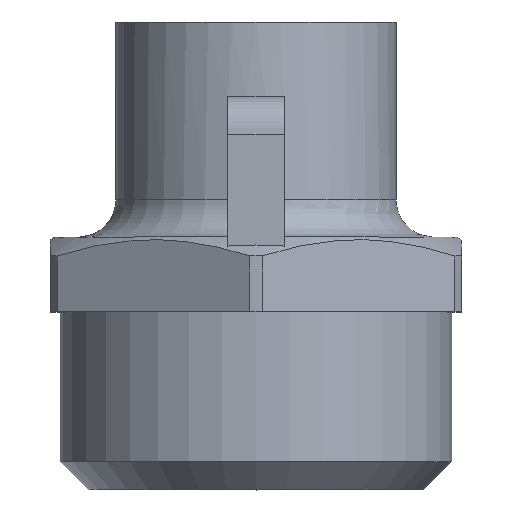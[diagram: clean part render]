
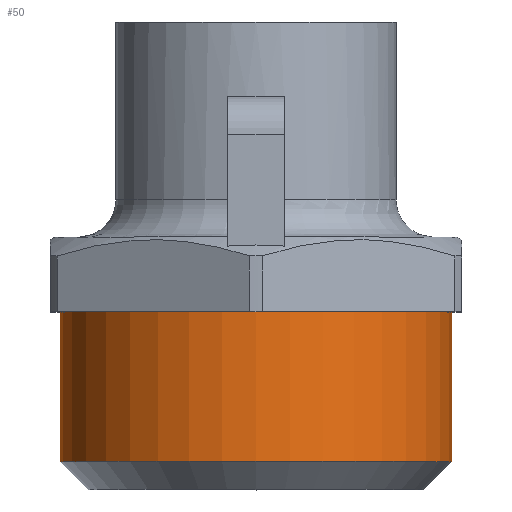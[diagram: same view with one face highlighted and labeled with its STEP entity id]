
A CAD part, top view. The second image highlights one B-rep face of the part: STEP entity #50.
In plain terms, the highlighted cylindrical face has radius 10.477 mm (diameter 20.955 mm), a full revolution.
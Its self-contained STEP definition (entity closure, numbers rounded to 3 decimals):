
#50=ADVANCED_FACE('',(#132,#134),#136,.T.);
#132=FACE_OUTER_BOUND('',#133,.T.);
#133=EDGE_LOOP('',(#362));
#134=FACE_OUTER_BOUND('',#135,.T.);
#135=EDGE_LOOP('',(#363));
#136=CYLINDRICAL_SURFACE('',#137,10.478);
#137=AXIS2_PLACEMENT_3D('',#138,#139,#140);
#138=CARTESIAN_POINT('',(0.,-4.,0.));
#139=DIRECTION('',(0.,-1.,0.));
#140=DIRECTION('',(1.,0.,0.));
#362=ORIENTED_EDGE('',*,*,#506,.T.);
#363=ORIENTED_EDGE('',*,*,#504,.F.);
#504=EDGE_CURVE('',#584,#584,#585,.T.);
#506=EDGE_CURVE('',#588,#588,#589,.T.);
#584=VERTEX_POINT('',#731);
#585=CIRCLE('',#732,10.478);
#588=VERTEX_POINT('',#741);
#589=CIRCLE('',#742,10.478);
#731=CARTESIAN_POINT('',(10.478,-12.,0.));
#732=AXIS2_PLACEMENT_3D('',#733,#734,#735);
#733=CARTESIAN_POINT('',(0.,-12.,0.));
#734=DIRECTION('',(0.,-1.,0.));
#735=DIRECTION('',(1.,0.,0.));
#741=CARTESIAN_POINT('',(10.478,-4.,0.));
#742=AXIS2_PLACEMENT_3D('',#743,#744,#745);
#743=CARTESIAN_POINT('',(0.,-4.,0.));
#744=DIRECTION('',(0.,-1.,0.));
#745=DIRECTION('',(1.,0.,0.));
